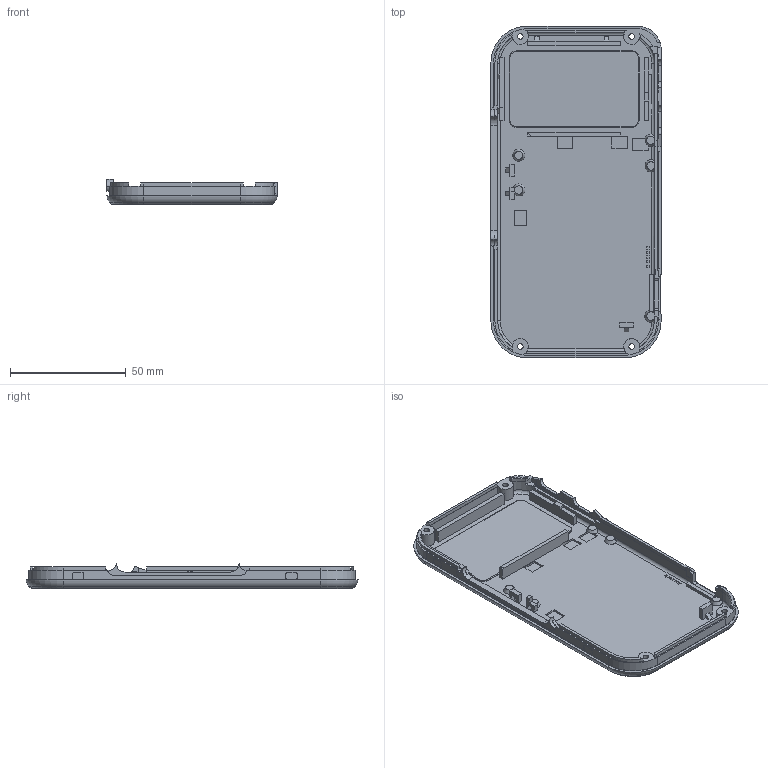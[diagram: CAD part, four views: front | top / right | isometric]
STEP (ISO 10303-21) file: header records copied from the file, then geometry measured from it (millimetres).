
FILE_DESCRIPTION(('Open CASCADE Model'),'2;1');
FILE_NAME('Back','2026-09-21T22:33:42',('Author'),('Open CASCADE'), 'Open CASCADE STEP processor 7.9','build123d','Unknown');
FILE_SCHEMA(('AUTOMOTIVE_DESIGN { 1 0 10303 214 1 1 1 1 }'));
Length unit declared in the file: millimetre
Products named in the file (2): Back
Assembly tree (1 placements, depth 2):
  Back
    Back
Bounding box: 73.5 x 143.24 x 10.99 mm (x, y, z)
Volume: 27295.2 mm3; surface area: 28723.3 mm2
Topology: 1 solids, 1 shells, 432 faces, 1218 edges, 802 vertices
Faces by surface type: plane 280, cylinder 108, torus 21, cone 18, bspline 5
Full cylindrical faces by diameter (mm): 2.4 x4, 4.4 x4
Entity records: 14728 total; most frequent: CARTESIAN_POINT 3327, ORIENTED_EDGE 2436, DIRECTION 2340, EDGE_CURVE 1218, VERTEX_POINT 802, LINE 786, VECTOR 786, AXIS2_PLACEMENT_3D 777
